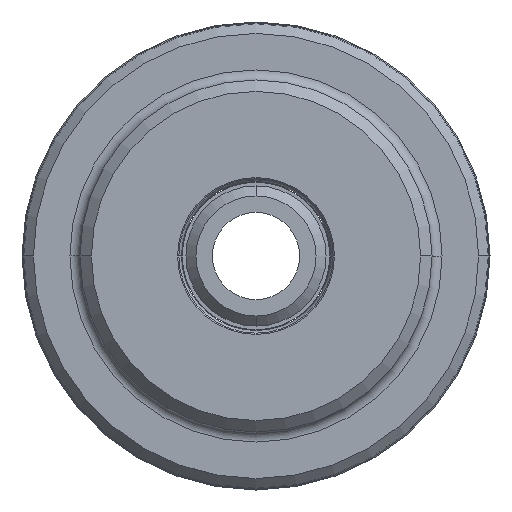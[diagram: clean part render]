
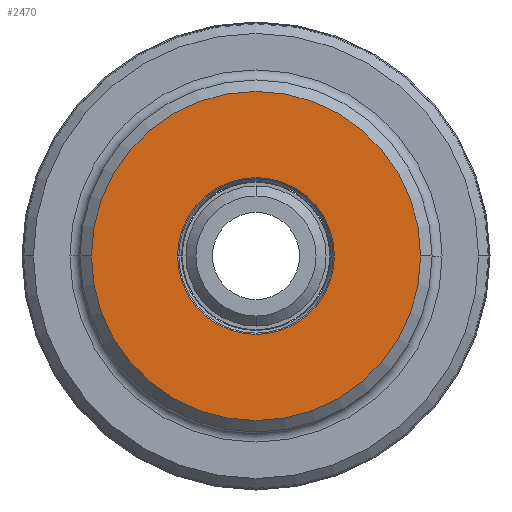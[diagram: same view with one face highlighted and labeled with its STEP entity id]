
A CAD part, front view. The second image highlights one B-rep face of the part: STEP entity #2470.
In plain terms, the highlighted planar face has unit normal (0, -1, 0) as drawn and (0, 1, 0) by its records, which use the part's own axes.
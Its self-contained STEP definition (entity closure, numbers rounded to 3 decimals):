
#1306=CARTESIAN_POINT('',(0.,4.,0.));
#1307=DIRECTION('',(0.,-1.,0.));
#1308=DIRECTION('',(1.,0.,0.));
#1309=AXIS2_PLACEMENT_3D('',#1306,#1307,#1308);
#1311=CARTESIAN_POINT('',(0.,4.,0.));
#1312=DIRECTION('',(0.,-1.,0.));
#1313=DIRECTION('',(-1.,0.,0.));
#1314=AXIS2_PLACEMENT_3D('',#1311,#1312,#1313);
#1316=CARTESIAN_POINT('',(0.,4.,0.));
#1317=DIRECTION('',(0.,-1.,0.));
#1318=DIRECTION('',(1.,0.,0.));
#1319=AXIS2_PLACEMENT_3D('',#1316,#1317,#1318);
#1321=CARTESIAN_POINT('',(0.,4.,0.));
#1322=DIRECTION('',(0.,-1.,0.));
#1323=DIRECTION('',(-1.,0.,0.));
#1324=AXIS2_PLACEMENT_3D('',#1321,#1322,#1323);
#1554=CARTESIAN_POINT('',(24.55,4.,0.));
#1555=CARTESIAN_POINT('',(-24.55,4.,0.));
#1556=VERTEX_POINT('',#1554);
#1557=VERTEX_POINT('',#1555);
#1566=CARTESIAN_POINT('',(11.7,4.,0.));
#1567=CARTESIAN_POINT('',(-11.7,4.,0.));
#1568=VERTEX_POINT('',#1566);
#1569=VERTEX_POINT('',#1567);
#2454=CARTESIAN_POINT('',(0.,4.,0.));
#2455=DIRECTION('',(0.,1.,0.));
#2456=DIRECTION('',(1.,0.,0.));
#2457=AXIS2_PLACEMENT_3D('',#2454,#2455,#2456);
#2458=PLANE('',#2457);
#2460=ORIENTED_EDGE('',*,*,#2459,.T.);
#2462=ORIENTED_EDGE('',*,*,#2461,.T.);
#2463=EDGE_LOOP('',(#2460,#2462));
#2464=FACE_OUTER_BOUND('',#2463,.F.);
#2465=ORIENTED_EDGE('',*,*,#2444,.F.);
#2467=ORIENTED_EDGE('',*,*,#2466,.F.);
#2468=EDGE_LOOP('',(#2465,#2467));
#2469=FACE_BOUND('',#2468,.F.);
#2470=ADVANCED_FACE('',(#2464,#2469),#2458,.T.);
#1310=CIRCLE('',#1309,24.55);
#1315=CIRCLE('',#1314,24.55);
#1320=CIRCLE('',#1319,11.7);
#1325=CIRCLE('',#1324,11.7);
#2444=EDGE_CURVE('',#1568,#1569,#1320,.T.);
#2459=EDGE_CURVE('',#1556,#1557,#1310,.T.);
#2461=EDGE_CURVE('',#1557,#1556,#1315,.T.);
#2466=EDGE_CURVE('',#1569,#1568,#1325,.T.);
